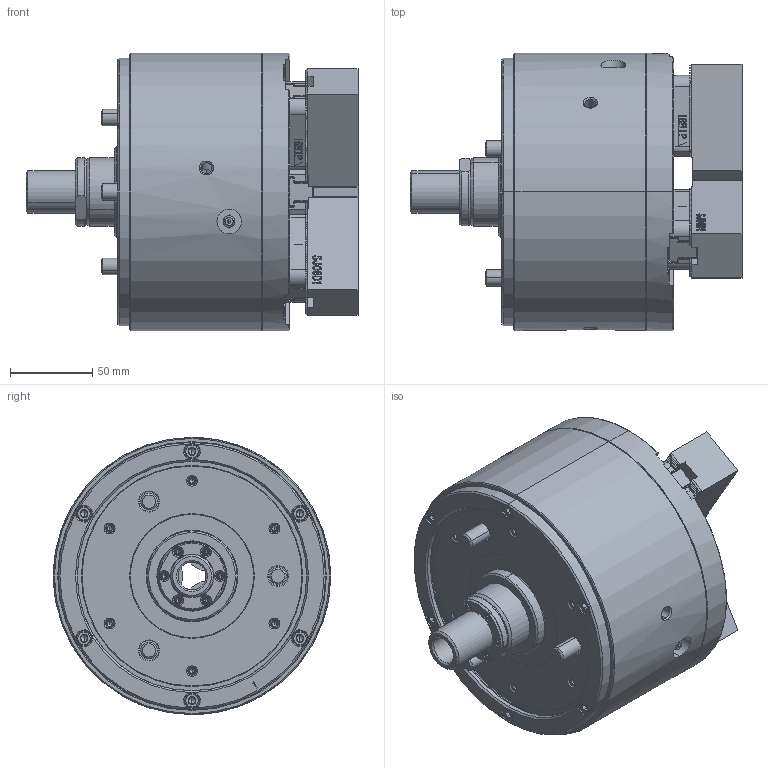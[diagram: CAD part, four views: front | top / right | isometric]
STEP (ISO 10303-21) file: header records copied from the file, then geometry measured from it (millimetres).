
FILE_DESCRIPTION (( 'STEP AP214' ), '1' );
FILE_NAME ('DL206_OC.STEP', '2022-09-07T05:48:30', ( '' ), ( '' ), 'SwSTEP 2.0', 'SolidWorks 2020', '' );
FILE_SCHEMA (( 'AUTOMOTIVE_DESIGN' ));
Length unit declared in the file: millimetre
Products named in the file (5): 結合DL206_OC^DL206; 0030110025; DL206_OC; 61P456464; 61P385747
Assembly tree (13 placements, depth 2):
  DL206_OC
    61P385747  x3
    61P456464  x3
    0030110025  x6
    結合DL206_OC^DL206
Bounding box: 202.4 x 169 x 169 mm (x, y, z)
Volume: 2464096.9 mm3; surface area: 245563.6 mm2
Topology: 13 solids, 51 shells, 5971 faces, 16377 edges, 10677 vertices
Faces by surface type: plane 3540, bspline 1071, cylinder 707, cone 621, torus 28, sphere 4
Entity records: 192264 total; most frequent: CARTESIAN_POINT 73114, ORIENTED_EDGE 27232, DIRECTION 20327, EDGE_CURVE 13616, VECTOR 9013, LINE 9013, VERTEX_POINT 8955, AXIS2_PLACEMENT_3D 5657
